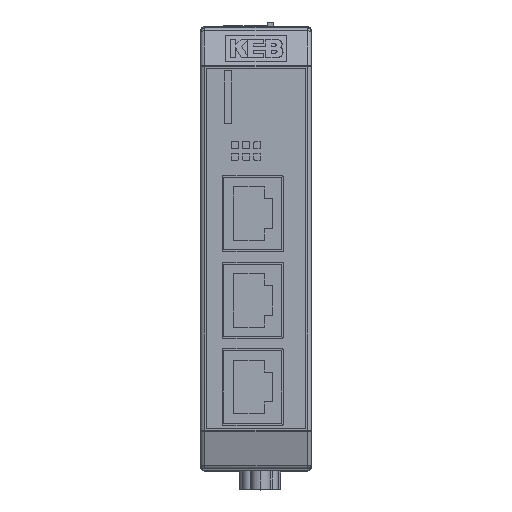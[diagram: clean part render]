
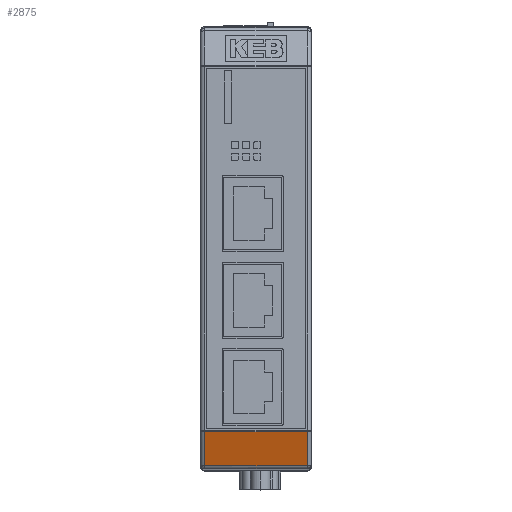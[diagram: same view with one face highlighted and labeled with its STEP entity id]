
A CAD part, top view. The second image highlights one B-rep face of the part: STEP entity #2875.
In plain terms, the highlighted planar face has unit normal (0, -0.292, 0.956).
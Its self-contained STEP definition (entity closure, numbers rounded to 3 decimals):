
#2017 = CARTESIAN_POINT ( 'NONE',  ( -11.5, -99.011, 136.847 ) ) ;
#2422 = DIRECTION ( 'NONE',  ( -1., 0., 0. ) ) ;
#2455 = B_SPLINE_CURVE_WITH_KNOTS ( 'NONE', 1,
 ( #14977, #6370 ),
 .UNSPECIFIED., .F., .F.,
 ( 2, 2 ),
 ( 0., 1. ),
 .UNSPECIFIED. ) ;
#2675 = DIRECTION ( 'NONE',  ( 0., 0.292, -0.956 ) ) ;
#2875 = ADVANCED_FACE ( 'NONE', ( #13804 ), #8597, .F. ) ;
#3130 = B_SPLINE_CURVE_WITH_KNOTS ( 'NONE', 3,
 ( #12371, #9680, #11142, #5003 ),
 .UNSPECIFIED., .F., .F.,
 ( 4, 4 ),
 ( 0., 1. ),
 .UNSPECIFIED. ) ;
#3287 = CARTESIAN_POINT ( 'NONE',  ( 11.5, -91.293, 139.206 ) ) ;
#3971 = EDGE_CURVE ( 'NONE', #6761, #13502, #13341, .T. ) ;
#5003 = CARTESIAN_POINT ( 'NONE',  ( -11.5, -99.011, 136.847 ) ) ;
#5284 = CARTESIAN_POINT ( 'NONE',  ( 11.5, -93.866, 138.42 ) ) ;
#6060 = ORIENTED_EDGE ( 'NONE', *, *, #3971, .F. ) ;
#6370 = CARTESIAN_POINT ( 'NONE',  ( -11.5, -99.011, 136.847 ) ) ;
#6761 = VERTEX_POINT ( 'NONE', #10527 ) ;
#7595 = VERTEX_POINT ( 'NONE', #2017 ) ;
#7808 = ORIENTED_EDGE ( 'NONE', *, *, #15763, .F. ) ;
#8397 = B_SPLINE_CURVE_WITH_KNOTS ( 'NONE', 3,
 ( #15332, #15409, #5284, #9143 ),
 .UNSPECIFIED., .F., .F.,
 ( 4, 4 ),
 ( 0., 1. ),
 .UNSPECIFIED. ) ;
#8597 = PLANE ( 'NONE',  #14655 ) ;
#8871 = ORIENTED_EDGE ( 'NONE', *, *, #10147, .T. ) ;
#9143 = CARTESIAN_POINT ( 'NONE',  ( 11.5, -91.293, 139.206 ) ) ;
#9680 = CARTESIAN_POINT ( 'NONE',  ( -11.5, -93.866, 138.42 ) ) ;
#10147 = EDGE_CURVE ( 'NONE', #10587, #13502, #8397, .T. ) ;
#10281 = CARTESIAN_POINT ( 'NONE',  ( 11.5, -91.293, 139.206 ) ) ;
#10504 = ORIENTED_EDGE ( 'NONE', *, *, #13649, .T. ) ;
#10527 = CARTESIAN_POINT ( 'NONE',  ( -11.5, -91.293, 139.206 ) ) ;
#10587 = VERTEX_POINT ( 'NONE', #13942 ) ;
#11142 = CARTESIAN_POINT ( 'NONE',  ( -11.5, -96.439, 137.633 ) ) ;
#11496 = CARTESIAN_POINT ( 'NONE',  ( -11.5, -91.293, 139.206 ) ) ;
#12371 = CARTESIAN_POINT ( 'NONE',  ( -11.5, -91.293, 139.206 ) ) ;
#13341 = B_SPLINE_CURVE_WITH_KNOTS ( 'NONE', 1,
 ( #11496, #10281 ),
 .UNSPECIFIED., .F., .F.,
 ( 2, 2 ),
 ( 0., 1. ),
 .UNSPECIFIED. ) ;
#13421 = EDGE_LOOP ( 'NONE', ( #10504, #7808, #8871, #6060 ) ) ;
#13502 = VERTEX_POINT ( 'NONE', #3287 ) ;
#13649 = EDGE_CURVE ( 'NONE', #6761, #7595, #3130, .T. ) ;
#13804 = FACE_OUTER_BOUND ( 'NONE', #13421, .T. ) ;
#13942 = CARTESIAN_POINT ( 'NONE',  ( 11.5, -99.011, 136.847 ) ) ;
#14655 = AXIS2_PLACEMENT_3D ( 'NONE', #16071, #2675, #2422 ) ;
#14977 = CARTESIAN_POINT ( 'NONE',  ( 11.5, -99.011, 136.847 ) ) ;
#15332 = CARTESIAN_POINT ( 'NONE',  ( 11.5, -99.011, 136.847 ) ) ;
#15409 = CARTESIAN_POINT ( 'NONE',  ( 11.5, -96.439, 137.633 ) ) ;
#15763 = EDGE_CURVE ( 'NONE', #10587, #7595, #2455, .T. ) ;
#16071 = CARTESIAN_POINT ( 'NONE',  ( 11.5, -99.011, 136.847 ) ) ;
